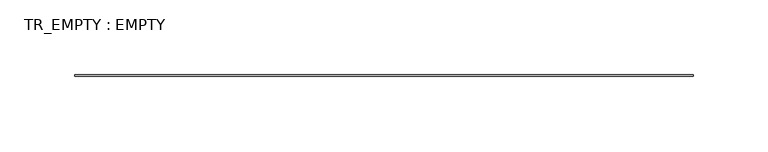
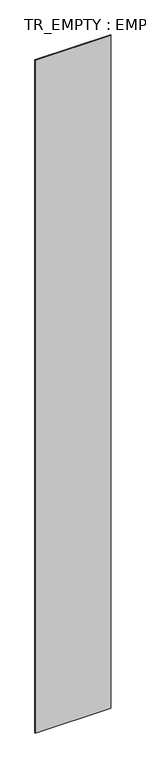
"""IFC4 building model written with IfcOpenShell, lengths in millimetres: plate geometry, TR_EMPTY : EMPTY."""

import ifcopenshell
import ifcopenshell.guid

model = None  # the IFC model being written
_history = None  # IfcOwnerHistory: only IFC2X3 demands one
_inside = {}  # id of a spatial element -> (the spatial element, [elements in it])
_under = {}  # id of a project, library or spatial element -> (it, [spatial elements below it])
_declared = {}  # id of a project -> (the project, [libraries it declares])
_typed = {}  # id of a type object -> (the type object, [elements of that type])
_made_of = {}  # id of a material, layer set ... -> (it, [elements and type objects made of it])


def new_model(schema):
    """Start an empty IFC model of exactly this schema.

    Asked for "IFC4X3", IfcOpenShell would pick the latest addendum, in which some entities
    have other attributes; the version numbers below select the first issue.
    IFC2X3 requires an IfcOwnerHistory on every rooted entity: one is made here for all.
    """
    global model, _history
    if schema == "IFC4X3":
        model = ifcopenshell.file(schema_version=(4, 3, 0, 0))
    else:
        model = ifcopenshell.file(schema=schema)
    _inside.clear()
    _under.clear()
    _declared.clear()
    _typed.clear()
    _made_of.clear()
    _history = None
    if model.schema == "IFC2X3":
        org = make("IfcOrganization", Name="unknown")
        user = make(
            "IfcPersonAndOrganization",
            ThePerson=make("IfcPerson", FamilyName="unknown"),
            TheOrganization=org,
        )
        app = make(
            "IfcApplication",
            ApplicationDeveloper=org,
            Version="unknown",
            ApplicationFullName="unknown",
            ApplicationIdentifier="unknown",
        )
        _history = make(
            "IfcOwnerHistory",
            OwningUser=user,
            OwningApplication=app,
            ChangeAction="ADDED",
            CreationDate=0,
        )
    return model


def make(cls, **values):
    """One entity of the class cls with the attributes given. An attribute that is None is left unset."""
    return model.create_entity(
        cls, **{name: value for name, value in values.items() if value is not None}
    )


def rooted(cls, **values):
    """An entity with a GlobalId (a new one), such as an element, a storey or a relation."""
    return make(cls, GlobalId=ifcopenshell.guid.new(), OwnerHistory=_history, **values)


def si_unit(unit_type, name, prefix=None):
    """IfcSIUnit, for example si_unit("LENGTHUNIT", "METRE", prefix="MILLI")."""
    return make("IfcSIUnit", UnitType=unit_type, Prefix=prefix, Name=name)


def assignment(units):
    """IfcUnitAssignment: the units of a project."""
    return None if units is None else make("IfcUnitAssignment", Units=units)


def point(xyz):
    """IfcCartesianPoint."""
    return None if xyz is None else make("IfcCartesianPoint", Coordinates=xyz)


def direction(xyz):
    """IfcDirection."""
    return None if xyz is None else make("IfcDirection", DirectionRatios=xyz)


def frame(location, z_axis=None, x_axis=None):
    """IfcAxis2Placement3D, a coordinate frame: its origin and axes. An axis left out is left unset."""
    return make(
        "IfcAxis2Placement3D",
        Location=point(location),
        Axis=direction(z_axis),
        RefDirection=direction(x_axis),
    )


def origin():
    """The frame at (0, 0, 0) with its axes left unset."""
    return frame((0.0, 0.0, 0.0))


def place(relative_to, where):
    """IfcLocalPlacement: puts the frame where relative to a parent placement (None: the world)."""
    return make(
        "IfcLocalPlacement", PlacementRelTo=relative_to, RelativePlacement=where
    )


def context(
    kind, dimensions, precision=None, world=None, true_north=None, identifier=None
):
    """IfcGeometricRepresentationContext, for example the 3D "Model" context."""
    return make(
        "IfcGeometricRepresentationContext",
        ContextIdentifier=identifier,
        ContextType=kind,
        CoordinateSpaceDimension=dimensions,
        Precision=precision,
        WorldCoordinateSystem=world,
        TrueNorth=true_north,
    )


def project(units=None, contexts=None):
    """IfcProject with its units and contexts."""
    return rooted(
        "IfcProject",
        Name="project",
        RepresentationContexts=contexts,
        UnitsInContext=assignment(units),
    )


def spatial(cls, under=None, at=None, **own):
    """A site, building, storey or space (cls), placed at a placement, below another one or the project."""
    s = rooted(cls, ObjectPlacement=at, **own)
    if under is not None:
        _under.setdefault(under.id(), (under, []))[1].append(s)
    return s


def polyline(points):
    """IfcPolyline through the points."""
    return make("IfcPolyline", Points=[point(p) for p in points])


def outline(outer, holes=None, kind="AREA"):
    """IfcArbitraryClosedProfileDef: a profile drawn as a closed curve; with holes, ...WithVoids."""
    if holes is None:
        return make("IfcArbitraryClosedProfileDef", ProfileType=kind, OuterCurve=outer)
    return make(
        "IfcArbitraryProfileDefWithVoids",
        ProfileType=kind,
        OuterCurve=outer,
        InnerCurves=holes,
    )


def extrude(swept, where, along, depth):
    """IfcExtrudedAreaSolid: the profile swept, set in the frame where, extruded along a direction by depth."""
    return make(
        "IfcExtrudedAreaSolid",
        SweptArea=swept,
        Position=where,
        ExtrudedDirection=direction(along),
        Depth=depth,
    )


def shape(context_of_items, identifier, shape_type, items):
    """IfcShapeRepresentation: the items that make up one representation, for example the "Body"."""
    return make(
        "IfcShapeRepresentation",
        ContextOfItems=context_of_items,
        RepresentationIdentifier=identifier,
        RepresentationType=shape_type,
        Items=items,
    )


def source(mapping_origin, context_of_items, identifier, shape_type, items):
    """IfcRepresentationMap: a shape defined once, which mapped items show again and again."""
    return make(
        "IfcRepresentationMap",
        MappingOrigin=mapping_origin,
        MappedRepresentation=shape(context_of_items, identifier, shape_type, items),
    )


def transform(
    local_origin,
    x_axis=None,
    y_axis=None,
    z_axis=None,
    scale=None,
    scale2=None,
    scale3=None,
    uniform=True,
):
    """IfcCartesianTransformationOperator3D, or its non-uniform kind. x_axis, y_axis, z_axis: its Axis1, 2, 3."""
    if uniform:
        return make(
            "IfcCartesianTransformationOperator3D",
            Axis1=direction(x_axis),
            Axis2=direction(y_axis),
            LocalOrigin=point(local_origin),
            Scale=scale,
            Axis3=direction(z_axis),
        )
    return make(
        "IfcCartesianTransformationOperator3DnonUniform",
        Axis1=direction(x_axis),
        Axis2=direction(y_axis),
        LocalOrigin=point(local_origin),
        Scale=scale,
        Axis3=direction(z_axis),
        Scale2=scale2,
        Scale3=scale3,
    )


def mapped(mapping_source, mapping_target):
    """IfcMappedItem: shows the shape of a source again, moved by a transform."""
    return make(
        "IfcMappedItem", MappingSource=mapping_source, MappingTarget=mapping_target
    )


def made_of(thing, what):
    """Note that an element or type object is made of a material, layer set ...; save() writes the relation."""
    if what is not None:
        _made_of.setdefault(what.id(), (what, []))[1].append(thing)
    return thing


def element(
    cls,
    number,
    at=None,
    inside=None,
    cuts=None,
    type_object=None,
    material=None,
    context=None,
    identifier="Body",
    shape_type=None,
    held_by="IfcProductDefinitionShape",
    body=None,
    shapes=None,
    **own,
):
    """One element of the class cls, such as IfcWall. Its Tag is "e" and its number.

    at: its placement. inside: the storey or other place that contains it. cuts: it is an
    opening in that element (IfcRelVoidsElement). A single representation is given by context,
    identifier, shape_type and body (its items); several are given by shapes. held_by: the class
    of the entity that holds the representations. save() writes the other relations.
    """
    e = rooted(cls, Tag="e%d" % number, ObjectPlacement=at, **own)
    if body is not None:
        shapes = [shape(context, identifier, shape_type, body)]
    if shapes is not None:
        e.Representation = make(held_by, Representations=shapes)
    if inside is not None:
        _inside.setdefault(inside.id(), (inside, []))[1].append(e)
    if cuts is not None:
        rooted(
            "IfcRelVoidsElement", RelatingBuildingElement=cuts, RelatedOpeningElement=e
        )
    if type_object is not None:
        _typed.setdefault(type_object.id(), (type_object, []))[1].append(e)
    return made_of(e, material)


def aggregate(whole, parts):
    """IfcRelAggregates: a whole, such as a stair, and the parts it consists of."""
    return rooted("IfcRelAggregates", RelatingObject=whole, RelatedObjects=parts)


def save(model, path):
    """Write the relations noted so far, then the file.

    IfcRelAggregates (storeys below a building ...), IfcRelContainedInSpatialStructure (elements
    in a storey), IfcRelDefinesByType, IfcRelAssociatesMaterial and IfcRelDeclares: one each for
    every whole, place, type object, material and project.
    """
    for whole, parts in _under.values():
        aggregate(whole, parts)
    for where, things in _inside.values():
        rooted(
            "IfcRelContainedInSpatialStructure",
            RelatedElements=things,
            RelatingStructure=where,
        )
    for kind, things in _typed.values():
        rooted("IfcRelDefinesByType", RelatedObjects=things, RelatingType=kind)
    for what, things in _made_of.values():
        rooted("IfcRelAssociatesMaterial", RelatedObjects=things, RelatingMaterial=what)
    for by, libraries in _declared.values():
        rooted("IfcRelDeclares", RelatingContext=by, RelatedDefinitions=libraries)
    model.write(path)


def tr_empty_empty_b4d49774(model_context):
    return source(origin(), model_context, "Body", "SweptSolid", [
        extrude(outline(polyline([(207.5000002, -31.0), (-207.5000002, -31.0), (-207.5000002, -30.0), (207.5000002, -30.0), (207.5000002, -31.0)])), frame((0.0, 0.0, 50.0), z_axis=(0.0, 0.0, 1.0), x_axis=(1.0, 0.0, 0.0)), (0.0, 0.0, 1.0), 3900.0),
    ])


if __name__ == "__main__":
    model = new_model("IFC4")
    model_context = context("Model", 3, world=origin())
    ifc_project = project(units=[si_unit("LENGTHUNIT", "METRE", prefix="MILLI")], contexts=[model_context])
    site = spatial("IfcSite", under=ifc_project)
    building = spatial("IfcBuilding", under=site)
    placement = place(None, origin())
    tr_empty_empty_shape = tr_empty_empty_b4d49774(model_context)
    element("IfcPlate", 1, ObjectType="TR_EMPTY : EMPTY", at=placement, inside=building, context=model_context, shape_type="MappedRepresentation", body=[
        mapped(tr_empty_empty_shape, transform((0.0, 0.0, 0.0), x_axis=(1.0, 0.0, 0.0), y_axis=(0.0, 1.0, 0.0), z_axis=(0.0, 0.0, 1.0))),
    ])
    save(model, "model.ifc")
